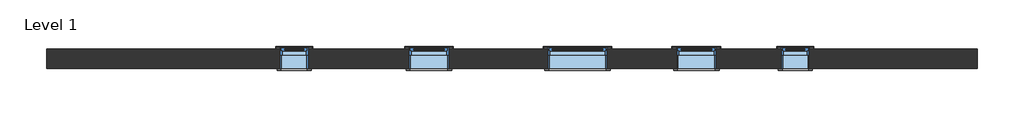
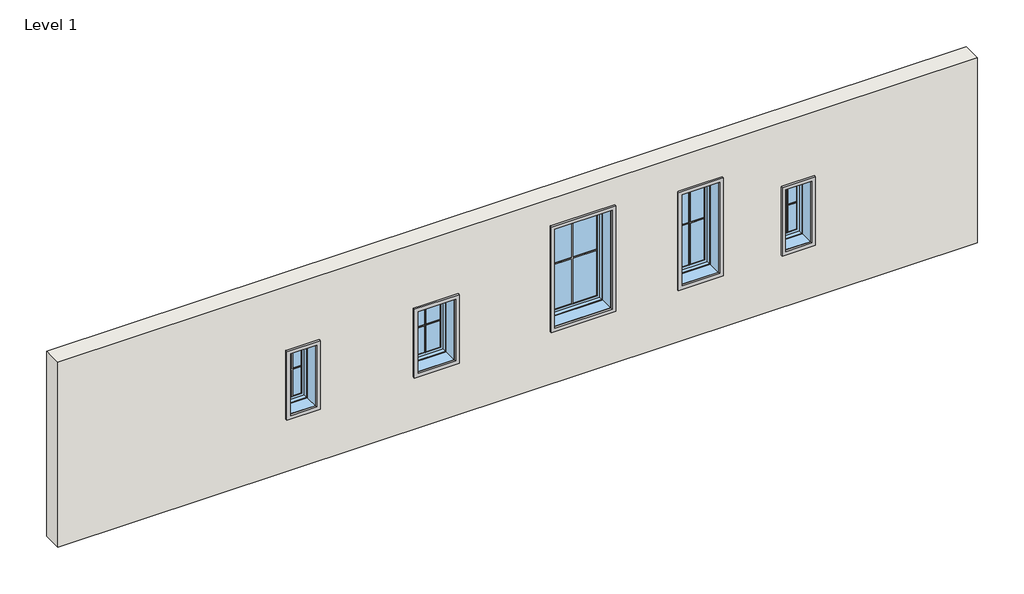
# One storey: 15 proxies, 5 windows, 1 wall.
"""IFC4 building model written with IfcOpenShell, lengths in millimetres."""

from ifc_helpers import new_model, si_unit, frame, origin, place, context, project, spatial, polyline, outline, extrude, transform, mapped, element, save
from components import muntin_pattern_2x2_muntin_pattern_2x2_c19c2a3f, muntin_pattern_2x2_muntin_pattern_2x2_8031e6f6, muntin_pattern_2x2_muntin_pattern_2x2_c0631f4b, muntin_pattern_2x2_muntin_pattern_2x2_ddce0145, trim_window_exterior_flat_with_sill_c72e890f, trim_window_exterior_flat_with_sill_4912eb0d, trim_window_exterior_flat_with_sill_0b42d71c, trim_window_exterior_flat_with_sill_8877020c, trim_window_interior_flat_picture_frame_12d5bf92, trim_window_interior_flat_picture_frame_978fd00d, trim_window_interior_flat_picture_frame_20827519, trim_window_interior_flat_picture_frame_a60bff81, window_df283ff0, window_3a3a1fc1, window_83f426f6, window_e5732006

model = new_model("IFC4")

# Units and contexts
model_context = context("Model", 3, world=origin())
ifc_project = project(units=[si_unit("LENGTHUNIT", "METRE", prefix="MILLI")], contexts=[model_context])

# Site, building, storey
site = spatial("IfcSite", under=ifc_project)
building = spatial("IfcBuilding", under=site)
storey = spatial("IfcBuildingStorey", under=building, Name="Level 1", Elevation=0.0)

# Proxies
placement = place(None, origin())
muntin_pattern_2x2_muntin_pattern_2x2_shape = muntin_pattern_2x2_muntin_pattern_2x2_c19c2a3f(model_context)
element("IfcBuildingElementProxy", 1, Name="Muntin Pattern_2x2 : Muntin Pattern_2x2", ObjectType="Muntin Pattern_2x2 : Muntin Pattern_2x2", at=placement, inside=storey, context=model_context, shape_type="MappedRepresentation", body=[
    mapped(muntin_pattern_2x2_muntin_pattern_2x2_shape, transform((-2014.7144805, 14004.904546, 984.25), x_axis=(1.0, 0.0, 0.0), y_axis=(0.0, 1.0, 0.0), z_axis=(0.0, 0.0, 1.0))),
])
element("IfcBuildingElementProxy", 2, Name="Muntin Pattern_2x2 : Muntin Pattern_2x2", ObjectType="Muntin Pattern_2x2 : Muntin Pattern_2x2", at=placement, inside=storey, context=model_context, shape_type="MappedRepresentation", body=[
    mapped(muntin_pattern_2x2_muntin_pattern_2x2_shape, transform((5698.5654257, 14004.904546, 984.25), x_axis=(1.0, 0.0, 0.0), y_axis=(0.0, 1.0, 0.0), z_axis=(0.0, 0.0, 1.0))),
])
muntin_pattern_2x2_muntin_pattern_2x2_2_shape = muntin_pattern_2x2_muntin_pattern_2x2_8031e6f6(model_context)
element("IfcBuildingElementProxy", 3, Name="Muntin Pattern_2x2 : Muntin Pattern_2x2", ObjectType="Muntin Pattern_2x2 : Muntin Pattern_2x2", at=placement, inside=storey, context=model_context, shape_type="MappedRepresentation", body=[
    mapped(muntin_pattern_2x2_muntin_pattern_2x2_2_shape, transform((4174.5654257, 14004.904546, 984.25), x_axis=(1.0, 0.0, 0.0), y_axis=(0.0, 1.0, 0.0), z_axis=(0.0, 0.0, 1.0))),
])
muntin_pattern_2x2_muntin_pattern_2x2_3_shape = muntin_pattern_2x2_muntin_pattern_2x2_c0631f4b(model_context)
element("IfcBuildingElementProxy", 4, Name="Muntin Pattern_2x2 : Muntin Pattern_2x2", ObjectType="Muntin Pattern_2x2 : Muntin Pattern_2x2", at=placement, inside=storey, context=model_context, shape_type="MappedRepresentation", body=[
    mapped(muntin_pattern_2x2_muntin_pattern_2x2_3_shape, transform((2345.7654257, 14004.904546, 984.25), x_axis=(1.0, 0.0, 0.0), y_axis=(0.0, 1.0, 0.0), z_axis=(0.0, 0.0, 1.0))),
])
muntin_pattern_2x2_muntin_pattern_2x2_4_shape = muntin_pattern_2x2_muntin_pattern_2x2_ddce0145(model_context)
element("IfcBuildingElementProxy", 5, Name="Muntin Pattern_2x2 : Muntin Pattern_2x2", ObjectType="Muntin Pattern_2x2 : Muntin Pattern_2x2", at=placement, inside=storey, context=model_context, shape_type="MappedRepresentation", body=[
    mapped(muntin_pattern_2x2_muntin_pattern_2x2_4_shape, transform((59.7654257, 14004.904546, 984.25), x_axis=(1.0, 0.0, 0.0), y_axis=(0.0, 1.0, 0.0), z_axis=(0.0, 0.0, 1.0))),
])
trim_window_exterior_flat_with_sill_shape = trim_window_exterior_flat_with_sill_c72e890f(model_context)
element("IfcBuildingElementProxy", 6, Name="Trim-Window-Exterior-Flat : with Sill", ObjectType="Trim-Window-Exterior-Flat : with Sill", at=placement, inside=storey, context=model_context, shape_type="MappedRepresentation", body=[
    mapped(trim_window_exterior_flat_with_sill_shape, transform((-2014.7144805, 14014.429546, 1955.8), x_axis=(-1.0, 0.0, 0.0), y_axis=(0.0, 0.0, 1.0), z_axis=(0.0, 1.0, 0.0))),
])
element("IfcBuildingElementProxy", 7, Name="Trim-Window-Exterior-Flat : with Sill", ObjectType="Trim-Window-Exterior-Flat : with Sill", at=placement, inside=storey, context=model_context, shape_type="MappedRepresentation", body=[
    mapped(trim_window_exterior_flat_with_sill_shape, transform((5698.5654257, 14014.429546, 1955.8), x_axis=(-1.0, 0.0, 0.0), y_axis=(0.0, 0.0, 1.0), z_axis=(0.0, 1.0, 0.0))),
])
trim_window_exterior_flat_with_sill_2_shape = trim_window_exterior_flat_with_sill_4912eb0d(model_context)
element("IfcBuildingElementProxy", 8, Name="Trim-Window-Exterior-Flat : with Sill", ObjectType="Trim-Window-Exterior-Flat : with Sill", at=placement, inside=storey, context=model_context, shape_type="MappedRepresentation", body=[
    mapped(trim_window_exterior_flat_with_sill_2_shape, transform((4174.5654257, 14014.429546, 2438.4), x_axis=(-1.0, 0.0, 0.0), y_axis=(0.0, 0.0, 1.0), z_axis=(0.0, 1.0, 0.0))),
])
trim_window_exterior_flat_with_sill_3_shape = trim_window_exterior_flat_with_sill_0b42d71c(model_context)
element("IfcBuildingElementProxy", 9, Name="Trim-Window-Exterior-Flat : with Sill", ObjectType="Trim-Window-Exterior-Flat : with Sill", at=placement, inside=storey, context=model_context, shape_type="MappedRepresentation", body=[
    mapped(trim_window_exterior_flat_with_sill_3_shape, transform((2345.7654257, 14014.429546, 2565.4), x_axis=(-1.0, 0.0, 0.0), y_axis=(0.0, 0.0, 1.0), z_axis=(0.0, 1.0, 0.0))),
])
trim_window_exterior_flat_with_sill_4_shape = trim_window_exterior_flat_with_sill_8877020c(model_context)
element("IfcBuildingElementProxy", 10, Name="Trim-Window-Exterior-Flat : with Sill", ObjectType="Trim-Window-Exterior-Flat : with Sill", at=placement, inside=storey, context=model_context, shape_type="MappedRepresentation", body=[
    mapped(trim_window_exterior_flat_with_sill_4_shape, transform((59.7654257, 14014.429546, 1955.8), x_axis=(-1.0, 0.0, 0.0), y_axis=(0.0, 0.0, 1.0), z_axis=(0.0, 1.0, 0.0))),
])
trim_window_interior_flat_picture_frame_shape = trim_window_interior_flat_picture_frame_12d5bf92(model_context)
element("IfcBuildingElementProxy", 11, Name="Trim-Window-Interior-Flat : Picture Frame", ObjectType="Trim-Window-Interior-Flat : Picture Frame", at=placement, inside=storey, context=model_context, shape_type="MappedRepresentation", body=[
    mapped(trim_window_interior_flat_picture_frame_shape, transform((-2014.7144805, 13709.629546, 1955.8), x_axis=(1.0, 0.0, 0.0), y_axis=(0.0, 0.0, 1.0), z_axis=(0.0, -1.0, 0.0))),
])
element("IfcBuildingElementProxy", 12, Name="Trim-Window-Interior-Flat : Picture Frame", ObjectType="Trim-Window-Interior-Flat : Picture Frame", at=placement, inside=storey, context=model_context, shape_type="MappedRepresentation", body=[
    mapped(trim_window_interior_flat_picture_frame_shape, transform((5698.5654257, 13709.629546, 1955.8), x_axis=(1.0, 0.0, 0.0), y_axis=(0.0, 0.0, 1.0), z_axis=(0.0, -1.0, 0.0))),
])
trim_window_interior_flat_picture_frame_2_shape = trim_window_interior_flat_picture_frame_978fd00d(model_context)
element("IfcBuildingElementProxy", 13, Name="Trim-Window-Interior-Flat : Picture Frame", ObjectType="Trim-Window-Interior-Flat : Picture Frame", at=placement, inside=storey, context=model_context, shape_type="MappedRepresentation", body=[
    mapped(trim_window_interior_flat_picture_frame_2_shape, transform((4174.5654257, 13709.629546, 2438.4), x_axis=(1.0, 0.0, 0.0), y_axis=(0.0, 0.0, 1.0), z_axis=(0.0, -1.0, 0.0))),
])
trim_window_interior_flat_picture_frame_3_shape = trim_window_interior_flat_picture_frame_20827519(model_context)
element("IfcBuildingElementProxy", 14, Name="Trim-Window-Interior-Flat : Picture Frame", ObjectType="Trim-Window-Interior-Flat : Picture Frame", at=placement, inside=storey, context=model_context, shape_type="MappedRepresentation", body=[
    mapped(trim_window_interior_flat_picture_frame_3_shape, transform((2345.7654257, 13709.629546, 2565.4), x_axis=(1.0, 0.0, 0.0), y_axis=(0.0, 0.0, 1.0), z_axis=(0.0, -1.0, 0.0))),
])
trim_window_interior_flat_picture_frame_4_shape = trim_window_interior_flat_picture_frame_a60bff81(model_context)
element("IfcBuildingElementProxy", 15, Name="Trim-Window-Interior-Flat : Picture Frame", ObjectType="Trim-Window-Interior-Flat : Picture Frame", at=placement, inside=storey, context=model_context, shape_type="MappedRepresentation", body=[
    mapped(trim_window_interior_flat_picture_frame_4_shape, transform((59.7654257, 13709.629546, 1955.8), x_axis=(1.0, 0.0, 0.0), y_axis=(0.0, 0.0, 1.0), z_axis=(0.0, -1.0, 0.0))),
])

# Wall
element("IfcWall", 16, ObjectType="# Template", at=placement, inside=storey, context=model_context, shape_type="SweptSolid", body=[
    extrude(outline(polyline([(0.0, -5824.7144805), (0.0, 8500.8855195), (3048.0, 8500.8855195), (3048.0, -5824.7144805), (0.0, -5824.7144805)]), holes=[polyline([(1955.8, -1798.8144805), (914.4, -1798.8144805), (914.4, -2230.6144805), (1955.8, -2230.6144805), (1955.8, -1798.8144805)]), polyline([(1955.8, 364.5654257), (914.4, 364.5654257), (914.4, -245.0345743), (1955.8, -245.0345743), (1955.8, 364.5654257)]), polyline([(2565.4, 2802.9654257), (914.4, 2802.9654257), (914.4, 1888.5654257), (2565.4, 1888.5654257), (2565.4, 2802.9654257)]), polyline([(2438.4, 4479.3654257), (914.4, 4479.3654257), (914.4, 3869.7654257), (2438.4, 3869.7654257), (2438.4, 4479.3654257)]), polyline([(1955.8, 5914.4654257), (914.4, 5914.4654257), (914.4, 5482.6654257), (1955.8, 5482.6654257), (1955.8, 5914.4654257)])]), frame((0.0, 13709.629546, 0.0), z_axis=(0.0, 1.0, 0.0), x_axis=(0.0, 0.0, 1.0)), (0.0, 0.0, 1.0), 304.8),
])

# Windows
window_shape = window_df283ff0(model_context)
element("IfcWindow", 17, ObjectType="Window-Awning-Single : 17\" x 41\"", at=placement, inside=storey, context=model_context, shape_type="MappedRepresentation", body=[
    mapped(window_shape, transform((-2014.7144805, 13862.029546, 0.0), x_axis=(1.0, 0.0, 0.0), y_axis=(0.0, 1.0, 0.0), z_axis=(0.0, 0.0, 1.0))),
])
element("IfcWindow", 18, ObjectType="Window-Awning-Single : 17\" x 41\"", at=placement, inside=storey, context=model_context, shape_type="MappedRepresentation", body=[
    mapped(window_shape, transform((5698.5654257, 13862.029546, 0.0), x_axis=(1.0, 0.0, 0.0), y_axis=(0.0, 1.0, 0.0), z_axis=(0.0, 0.0, 1.0))),
])
window_2_shape = window_3a3a1fc1(model_context)
element("IfcWindow", 19, ObjectType="Window-Awning-Single : 24\" x 41\"", at=placement, inside=storey, context=model_context, shape_type="MappedRepresentation", body=[
    mapped(window_2_shape, transform((59.7654257, 13862.029546, 0.0), x_axis=(1.0, 0.0, 0.0), y_axis=(0.0, 1.0, 0.0), z_axis=(0.0, 0.0, 1.0))),
])
window_3_shape = window_83f426f6(model_context)
element("IfcWindow", 20, ObjectType="Window-Awning-Single : 24\" x 60\"", at=placement, inside=storey, context=model_context, shape_type="MappedRepresentation", body=[
    mapped(window_3_shape, transform((4174.5654257, 13862.029546, 0.0), x_axis=(1.0, 0.0, 0.0), y_axis=(0.0, 1.0, 0.0), z_axis=(0.0, 0.0, 1.0))),
])
window_4_shape = window_e5732006(model_context)
element("IfcWindow", 21, ObjectType="Window-Awning-Single : 36\" x 65\"", at=placement, inside=storey, context=model_context, shape_type="MappedRepresentation", body=[
    mapped(window_4_shape, transform((2345.7654257, 13862.029546, 0.0), x_axis=(1.0, 0.0, 0.0), y_axis=(0.0, 1.0, 0.0), z_axis=(0.0, 0.0, 1.0))),
])

save(model, "model.ifc")
